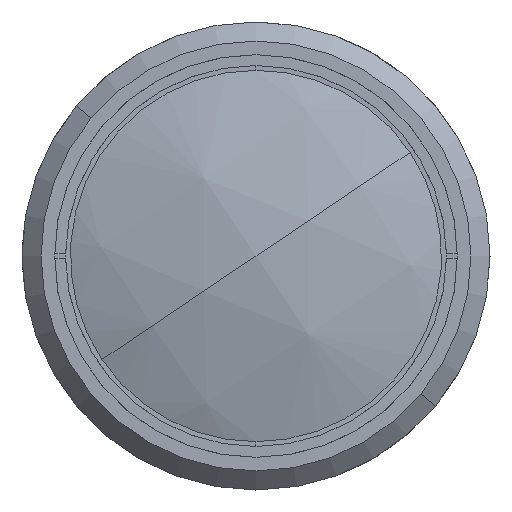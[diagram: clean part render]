
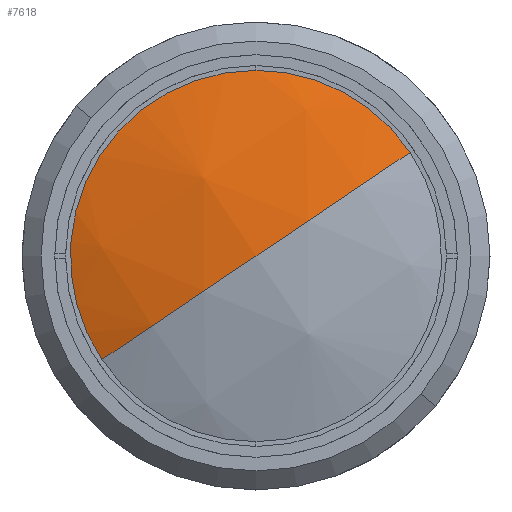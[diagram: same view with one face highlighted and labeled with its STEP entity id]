
A CAD part, left-side view. The second image highlights one B-rep face of the part: STEP entity #7618.
In plain terms, the highlighted spherical face has radius 102.234 mm.
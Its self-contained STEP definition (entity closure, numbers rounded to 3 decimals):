
#516 = ORIENTED_EDGE ( 'NONE', *, *, #33826, .T. ) ;
#1026 = SPHERICAL_SURFACE ( 'NONE', #60974, 102.234 ) ;
#4099 = CARTESIAN_POINT ( 'NONE',  ( 103.234, 0., 0. ) ) ;
#4427 = DIRECTION ( 'NONE',  ( 0., -0.83, 0.558 ) ) ;
#4744 = ORIENTED_EDGE ( 'NONE', *, *, #56992, .F. ) ;
#6331 = EDGE_CURVE ( 'NONE', #14557, #36990, #18549, .T. ) ;
#6716 = CARTESIAN_POINT ( 'NONE',  ( 6.86, 28.308, -19.041 ) ) ;
#7618 = ADVANCED_FACE ( 'NONE', ( #65368 ), #1026, .T. ) ;
#8942 = DIRECTION ( 'NONE',  ( 0., 0.558, 0.83 ) ) ;
#9206 = DIRECTION ( 'NONE',  ( 0., 0.83, -0.558 ) ) ;
#14557 = VERTEX_POINT ( 'NONE', #32246 ) ;
#17754 = AXIS2_PLACEMENT_3D ( 'NONE', #39396, #8942, #44531 ) ;
#18549 = CIRCLE ( 'NONE', #49921, 34.116 ) ;
#19933 = ORIENTED_EDGE ( 'NONE', *, *, #6331, .T. ) ;
#22093 = CARTESIAN_POINT ( 'NONE',  ( 6.86, 0., 0. ) ) ;
#23160 = DIRECTION ( 'NONE',  ( 0., 0.558, 0.83 ) ) ;
#25965 = CARTESIAN_POINT ( 'NONE',  ( 6.86, 0., 0. ) ) ;
#27192 = DIRECTION ( 'NONE',  ( 0., 0., -1. ) ) ;
#28076 = AXIS2_PLACEMENT_3D ( 'NONE', #4099, #39661, #9206 ) ;
#28231 = CARTESIAN_POINT ( 'NONE',  ( 103.234, 0., 0. ) ) ;
#31065 = DIRECTION ( 'NONE',  ( 0., 0., -1. ) ) ;
#31785 = EDGE_CURVE ( 'NONE', #36021, #49676, #35913, .T. ) ;
#32246 = CARTESIAN_POINT ( 'NONE',  ( 6.86, -28.308, 19.041 ) ) ;
#33826 = EDGE_CURVE ( 'NONE', #36990, #36021, #43040, .T. ) ;
#34366 = CARTESIAN_POINT ( 'NONE',  ( 6.86, 0., 34.116 ) ) ;
#35913 = CIRCLE ( 'NONE', #17754, 102.234 ) ;
#36021 = VERTEX_POINT ( 'NONE', #6716 ) ;
#36990 = VERTEX_POINT ( 'NONE', #34366 ) ;
#39396 = CARTESIAN_POINT ( 'NONE',  ( 103.234, 0., 0. ) ) ;
#39661 = DIRECTION ( 'NONE',  ( 0., -0.558, -0.83 ) ) ;
#41380 = ORIENTED_EDGE ( 'NONE', *, *, #31785, .T. ) ;
#43040 = CIRCLE ( 'NONE', #54819, 34.116 ) ;
#44531 = DIRECTION ( 'NONE',  ( 0., -0.83, 0.558 ) ) ;
#45665 = CARTESIAN_POINT ( 'NONE',  ( 1., 0., 0. ) ) ;
#49676 = VERTEX_POINT ( 'NONE', #45665 ) ;
#49921 = AXIS2_PLACEMENT_3D ( 'NONE', #22093, #57616, #27192 ) ;
#53475 = CIRCLE ( 'NONE', #28076, 102.234 ) ;
#54819 = AXIS2_PLACEMENT_3D ( 'NONE', #25965, #61476, #31065 ) ;
#56992 = EDGE_CURVE ( 'NONE', #14557, #49676, #53475, .T. ) ;
#57616 = DIRECTION ( 'NONE',  ( -1., 0., 0. ) ) ;
#60974 = AXIS2_PLACEMENT_3D ( 'NONE', #28231, #23160, #4427 ) ;
#61476 = DIRECTION ( 'NONE',  ( -1., 0., 0. ) ) ;
#65368 = FACE_OUTER_BOUND ( 'NONE', #65694, .T. ) ;
#65694 = EDGE_LOOP ( 'NONE', ( #19933, #516, #41380, #4744 ) ) ;
